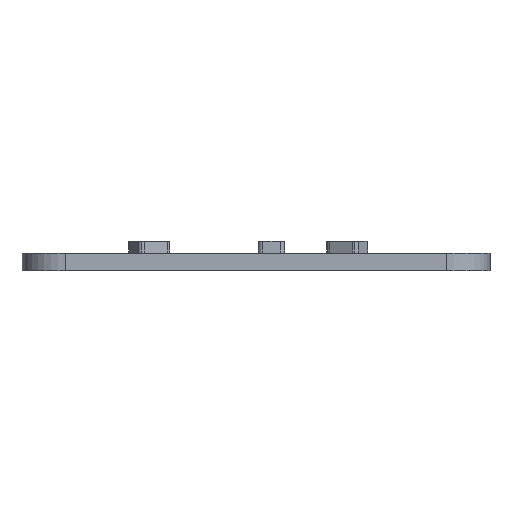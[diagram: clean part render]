
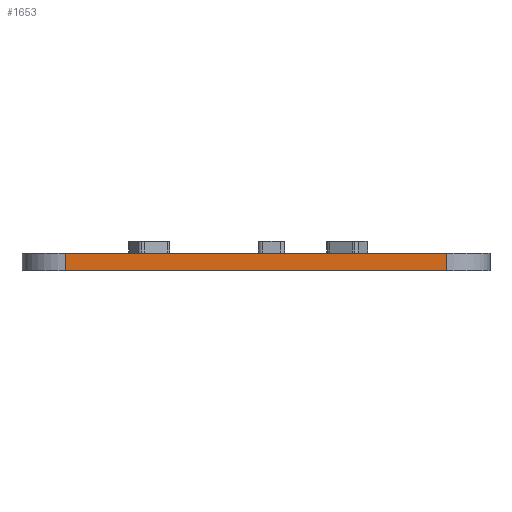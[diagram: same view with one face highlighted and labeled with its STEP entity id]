
A CAD part, left-side view. The second image highlights one B-rep face of the part: STEP entity #1653.
In plain terms, the highlighted planar face has unit normal (-1, 0, 0).
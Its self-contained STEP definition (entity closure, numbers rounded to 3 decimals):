
#2 = ORIENTED_EDGE ( 'NONE', *, *, #417, .T. ) ;
#23 = VERTEX_POINT ( 'NONE', #1981 ) ;
#119 = VECTOR ( 'NONE', #2544, 1000. ) ;
#178 = VERTEX_POINT ( 'NONE', #673 ) ;
#208 = CARTESIAN_POINT ( 'NONE',  ( -34.9, -21.9, 2.95 ) ) ;
#210 = LINE ( 'NONE', #1832, #2056 ) ;
#417 = EDGE_CURVE ( 'NONE', #23, #178, #2326, .T. ) ;
#461 = ORIENTED_EDGE ( 'NONE', *, *, #2402, .T. ) ;
#477 = CARTESIAN_POINT ( 'NONE',  ( -34.9, 21.904, 0. ) ) ;
#560 = EDGE_CURVE ( 'NONE', #178, #678, #210, .T. ) ;
#594 = DIRECTION ( 'NONE',  ( 1., 0., 0. ) ) ;
#673 = CARTESIAN_POINT ( 'NONE',  ( -34.9, 21.904, 2. ) ) ;
#678 = VERTEX_POINT ( 'NONE', #477 ) ;
#740 = VECTOR ( 'NONE', #1130, 1000. ) ;
#786 = DIRECTION ( 'NONE',  ( 0., 0., -1. ) ) ;
#814 = DIRECTION ( 'NONE',  ( 0., 0., -1. ) ) ;
#972 = DIRECTION ( 'NONE',  ( 0., 0., -1. ) ) ;
#1130 = DIRECTION ( 'NONE',  ( 0., -1., 0. ) ) ;
#1134 = EDGE_LOOP ( 'NONE', ( #2, #1309, #461, #2148 ) ) ;
#1167 = CARTESIAN_POINT ( 'NONE',  ( -34.9, 0., 2.95 ) ) ;
#1309 = ORIENTED_EDGE ( 'NONE', *, *, #560, .T. ) ;
#1345 = PLANE ( 'NONE',  #1555 ) ;
#1349 = CARTESIAN_POINT ( 'NONE',  ( -34.9, 0., 0. ) ) ;
#1380 = VECTOR ( 'NONE', #972, 1000. ) ;
#1555 = AXIS2_PLACEMENT_3D ( 'NONE', #1167, #594, #786 ) ;
#1570 = FACE_OUTER_BOUND ( 'NONE', #1134, .T. ) ;
#1653 = ADVANCED_FACE ( 'NONE', ( #1570 ), #1345, .F. ) ;
#1832 = CARTESIAN_POINT ( 'NONE',  ( -34.9, 21.904, 2.95 ) ) ;
#1924 = CARTESIAN_POINT ( 'NONE',  ( -34.9, 0., 2. ) ) ;
#1981 = CARTESIAN_POINT ( 'NONE',  ( -34.9, -21.9, 2. ) ) ;
#2009 = LINE ( 'NONE', #208, #1380 ) ;
#2056 = VECTOR ( 'NONE', #814, 1000. ) ;
#2148 = ORIENTED_EDGE ( 'NONE', *, *, #2606, .F. ) ;
#2290 = LINE ( 'NONE', #1349, #740 ) ;
#2301 = VERTEX_POINT ( 'NONE', #2420 ) ;
#2326 = LINE ( 'NONE', #1924, #119 ) ;
#2402 = EDGE_CURVE ( 'NONE', #678, #2301, #2290, .T. ) ;
#2420 = CARTESIAN_POINT ( 'NONE',  ( -34.9, -21.9, 0. ) ) ;
#2544 = DIRECTION ( 'NONE',  ( 0., 1., 0. ) ) ;
#2606 = EDGE_CURVE ( 'NONE', #23, #2301, #2009, .T. ) ;
